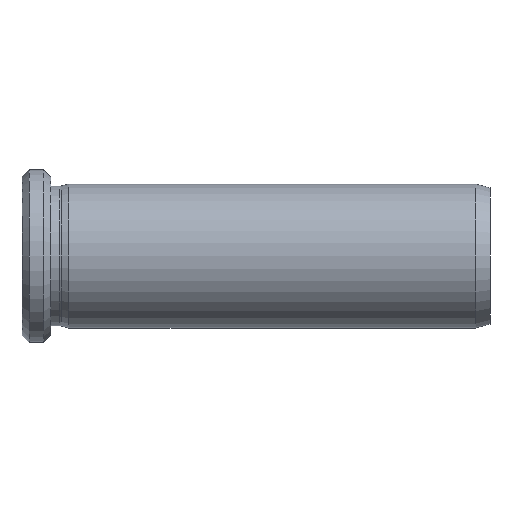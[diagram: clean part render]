
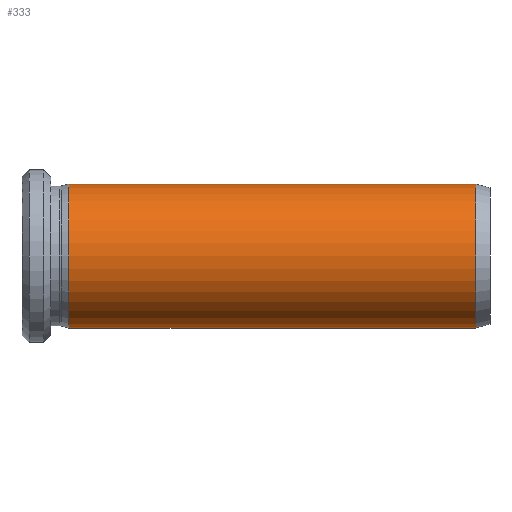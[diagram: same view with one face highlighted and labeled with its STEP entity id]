
A CAD part, front view. The second image highlights one B-rep face of the part: STEP entity #333.
In plain terms, the highlighted cylindrical face has radius 10 mm (diameter 20 mm), a partial arc.
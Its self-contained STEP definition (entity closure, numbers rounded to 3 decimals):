
#42 = EDGE_LOOP ( 'NONE', ( #153, #185, #172, #304 ) ) ;
#54 = EDGE_CURVE ( 'NONE', #65, #159, #439, .T. ) ;
#65 = VERTEX_POINT ( 'NONE', #383 ) ;
#73 = CYLINDRICAL_SURFACE ( 'NONE', #701, 10. ) ;
#99 = CARTESIAN_POINT ( 'NONE',  ( 0., 0., 10. ) ) ;
#108 = DIRECTION ( 'NONE',  ( -1., 0., 0. ) ) ;
#111 = FACE_OUTER_BOUND ( 'NONE', #42, .T. ) ;
#153 = ORIENTED_EDGE ( 'NONE', *, *, #166, .F. ) ;
#159 = VERTEX_POINT ( 'NONE', #160 ) ;
#160 = CARTESIAN_POINT ( 'NONE',  ( 73.8, 0., 10. ) ) ;
#166 = EDGE_CURVE ( 'NONE', #65, #587, #607, .T. ) ;
#172 = ORIENTED_EDGE ( 'NONE', *, *, #725, .T. ) ;
#182 = VECTOR ( 'NONE', #323, 1000. ) ;
#185 = ORIENTED_EDGE ( 'NONE', *, *, #54, .T. ) ;
#191 = CARTESIAN_POINT ( 'NONE',  ( 0., 0., 0. ) ) ;
#199 = DIRECTION ( 'NONE',  ( 0., 0., 1. ) ) ;
#211 = DIRECTION ( 'NONE',  ( -1., 0., 0. ) ) ;
#221 = DIRECTION ( 'NONE',  ( -1., 0., 0. ) ) ;
#237 = CARTESIAN_POINT ( 'NONE',  ( 17.3, 0., 0. ) ) ;
#304 = ORIENTED_EDGE ( 'NONE', *, *, #665, .F. ) ;
#323 = DIRECTION ( 'NONE',  ( -1., 0., 0. ) ) ;
#333 = ADVANCED_FACE ( 'NONE', ( #111 ), #73, .T. ) ;
#340 = LINE ( 'NONE', #99, #182 ) ;
#346 = AXIS2_PLACEMENT_3D ( 'NONE', #237, #211, #199 ) ;
#383 = CARTESIAN_POINT ( 'NONE',  ( 73.8, 0., -10. ) ) ;
#389 = DIRECTION ( 'NONE',  ( 0., 0., 1. ) ) ;
#391 = CIRCLE ( 'NONE', #346, 10. ) ;
#435 = CARTESIAN_POINT ( 'NONE',  ( 0., 0., -10. ) ) ;
#436 = CARTESIAN_POINT ( 'NONE',  ( 17.3, 0., 10. ) ) ;
#439 = CIRCLE ( 'NONE', #498, 10. ) ;
#468 = CARTESIAN_POINT ( 'NONE',  ( 17.3, 0., -10. ) ) ;
#472 = DIRECTION ( 'NONE',  ( -1., 0., 0. ) ) ;
#498 = AXIS2_PLACEMENT_3D ( 'NONE', #527, #221, #389 ) ;
#527 = CARTESIAN_POINT ( 'NONE',  ( 73.8, 0., 0. ) ) ;
#582 = VECTOR ( 'NONE', #108, 1000. ) ;
#587 = VERTEX_POINT ( 'NONE', #468 ) ;
#607 = LINE ( 'NONE', #435, #582 ) ;
#637 = DIRECTION ( 'NONE',  ( 0., 0., 1. ) ) ;
#665 = EDGE_CURVE ( 'NONE', #587, #727, #391, .T. ) ;
#701 = AXIS2_PLACEMENT_3D ( 'NONE', #191, #472, #637 ) ;
#725 = EDGE_CURVE ( 'NONE', #159, #727, #340, .T. ) ;
#727 = VERTEX_POINT ( 'NONE', #436 ) ;
